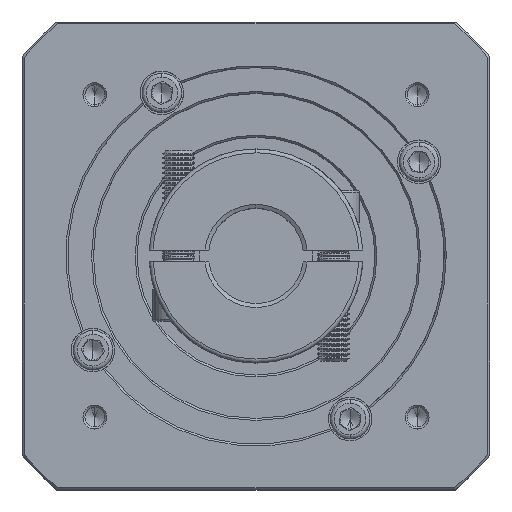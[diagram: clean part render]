
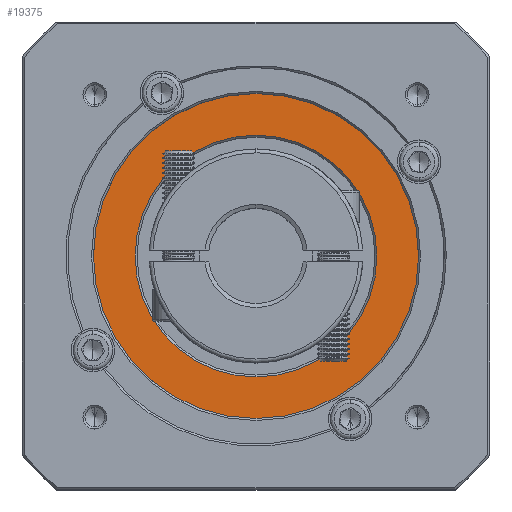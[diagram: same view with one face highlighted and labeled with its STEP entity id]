
A CAD part, top view. The second image highlights one B-rep face of the part: STEP entity #19375.
In plain terms, the highlighted planar face has unit normal (0, 0, 1).
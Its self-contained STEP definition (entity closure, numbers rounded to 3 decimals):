
#7002 = CARTESIAN_POINT ( 'NONE',  ( 49.409, 57.052, -32.414 ) ) ;
#15365 = DIRECTION ( 'NONE',  ( 0., 0., 1. ) ) ;
#19375 = ADVANCED_FACE ( 'NONE', ( #100769, #28684 ), #35221, .T. ) ;
#20919 = EDGE_LOOP ( 'NONE', ( #118565, #83328 ) ) ;
#22780 = AXIS2_PLACEMENT_3D ( 'NONE', #7002, #104389, #93103 ) ;
#23740 = ORIENTED_EDGE ( 'NONE', *, *, #53300, .T. ) ;
#26657 = AXIS2_PLACEMENT_3D ( 'NONE', #104057, #72543, #137272 ) ;
#27646 = CARTESIAN_POINT ( 'NONE',  ( 49.409, 57.052, -32.414 ) ) ;
#28684 = FACE_BOUND ( 'NONE', #20919, .T. ) ;
#31280 = DIRECTION ( 'NONE',  ( 0., 1., 0. ) ) ;
#31587 = ORIENTED_EDGE ( 'NONE', *, *, #132058, .T. ) ;
#34304 = CIRCLE ( 'NONE', #26657, 30.5 ) ;
#35221 = PLANE ( 'NONE',  #126534 ) ;
#42589 = CARTESIAN_POINT ( 'NONE',  ( 49.409, 87.552, -32.414 ) ) ;
#49796 = CIRCLE ( 'NONE', #52273, 41. ) ;
#52273 = AXIS2_PLACEMENT_3D ( 'NONE', #127310, #95463, #31280 ) ;
#53300 = EDGE_CURVE ( 'NONE', #57758, #128320, #116221, .T. ) ;
#56984 = CARTESIAN_POINT ( 'NONE',  ( 49.409, 57.052, -32.414 ) ) ;
#57435 = DIRECTION ( 'NONE',  ( 0., 1., 0. ) ) ;
#57758 = VERTEX_POINT ( 'NONE', #85755 ) ;
#62142 = CARTESIAN_POINT ( 'NONE',  ( 49.409, 26.552, -32.414 ) ) ;
#67485 = EDGE_LOOP ( 'NONE', ( #31587, #23740 ) ) ;
#72543 = DIRECTION ( 'NONE',  ( 0., 0., -1. ) ) ;
#72707 = CIRCLE ( 'NONE', #22780, 30.5 ) ;
#77509 = EDGE_CURVE ( 'NONE', #126087, #101527, #34304, .T. ) ;
#81804 = CARTESIAN_POINT ( 'NONE',  ( 49.409, 98.052, -32.414 ) ) ;
#83328 = ORIENTED_EDGE ( 'NONE', *, *, #77509, .T. ) ;
#85755 = CARTESIAN_POINT ( 'NONE',  ( 49.409, 16.052, -32.414 ) ) ;
#93103 = DIRECTION ( 'NONE',  ( 0., 1., 0. ) ) ;
#95463 = DIRECTION ( 'NONE',  ( 0., 0., 1. ) ) ;
#100769 = FACE_OUTER_BOUND ( 'NONE', #67485, .T. ) ;
#101527 = VERTEX_POINT ( 'NONE', #42589 ) ;
#104057 = CARTESIAN_POINT ( 'NONE',  ( 49.409, 57.052, -32.414 ) ) ;
#104389 = DIRECTION ( 'NONE',  ( 0., 0., -1. ) ) ;
#112512 = DIRECTION ( 'NONE',  ( 0., 1., 0. ) ) ;
#116221 = CIRCLE ( 'NONE', #131230, 41. ) ;
#118565 = ORIENTED_EDGE ( 'NONE', *, *, #124306, .T. ) ;
#123217 = DIRECTION ( 'NONE',  ( 0., 0., 1. ) ) ;
#124306 = EDGE_CURVE ( 'NONE', #101527, #126087, #72707, .T. ) ;
#126087 = VERTEX_POINT ( 'NONE', #62142 ) ;
#126534 = AXIS2_PLACEMENT_3D ( 'NONE', #27646, #123217, #112512 ) ;
#127310 = CARTESIAN_POINT ( 'NONE',  ( 49.409, 57.052, -32.414 ) ) ;
#128320 = VERTEX_POINT ( 'NONE', #81804 ) ;
#131230 = AXIS2_PLACEMENT_3D ( 'NONE', #56984, #15365, #57435 ) ;
#132058 = EDGE_CURVE ( 'NONE', #128320, #57758, #49796, .T. ) ;
#137272 = DIRECTION ( 'NONE',  ( 0., 1., 0. ) ) ;
